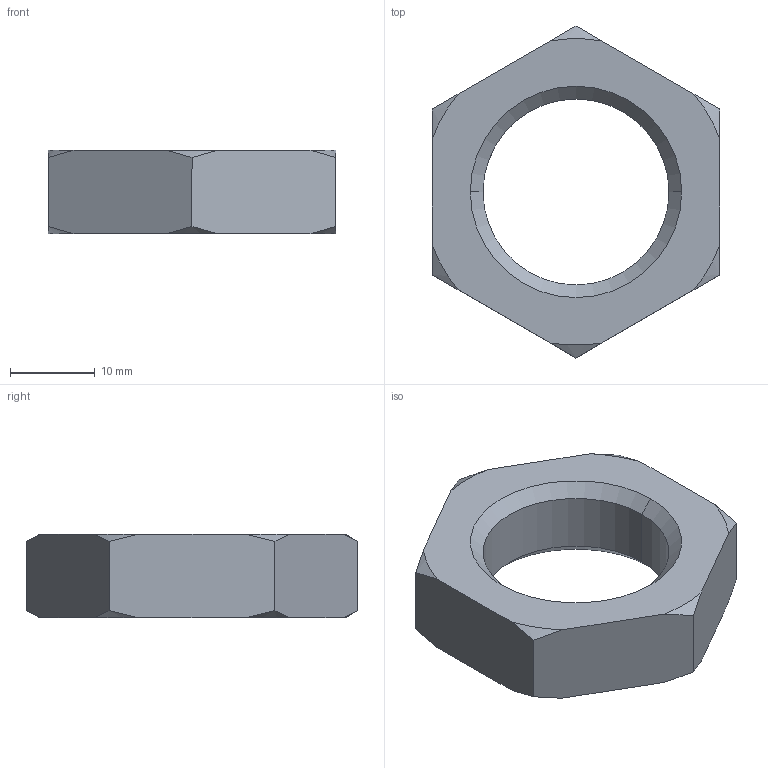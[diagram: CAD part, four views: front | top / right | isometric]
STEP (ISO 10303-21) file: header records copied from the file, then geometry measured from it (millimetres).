
FILE_DESCRIPTION (( 'STEP AP203' ), '1' );
FILE_NAME ('P0306.220-150-A4.step', '2018-12-15T15:01:32', ( '' ), ( '' ), 'SwSTEP 2.0', 'SolidWorks 2017', '' );
FILE_SCHEMA (( 'CONFIG_CONTROL_DESIGN' ));
Length unit declared in the file: millimetre
Products named in the file (1): P0306.220-150-A4
Bounding box: 34 x 39.26 x 9.9 mm (x, y, z)
Volume: 5970.8 mm3; surface area: 2950.3 mm2
Topology: 1 solids, 1 shells, 26 faces, 68 edges, 44 vertices
Faces by surface type: cone 16, plane 8, cylinder 2
Entity records: 905 total; most frequent: CARTESIAN_POINT 211, ORIENTED_EDGE 136, DIRECTION 118, EDGE_CURVE 68, AXIS2_PLACEMENT_3D 47, VERTEX_POINT 44, EDGE_LOOP 28, ADVANCED_FACE 26
